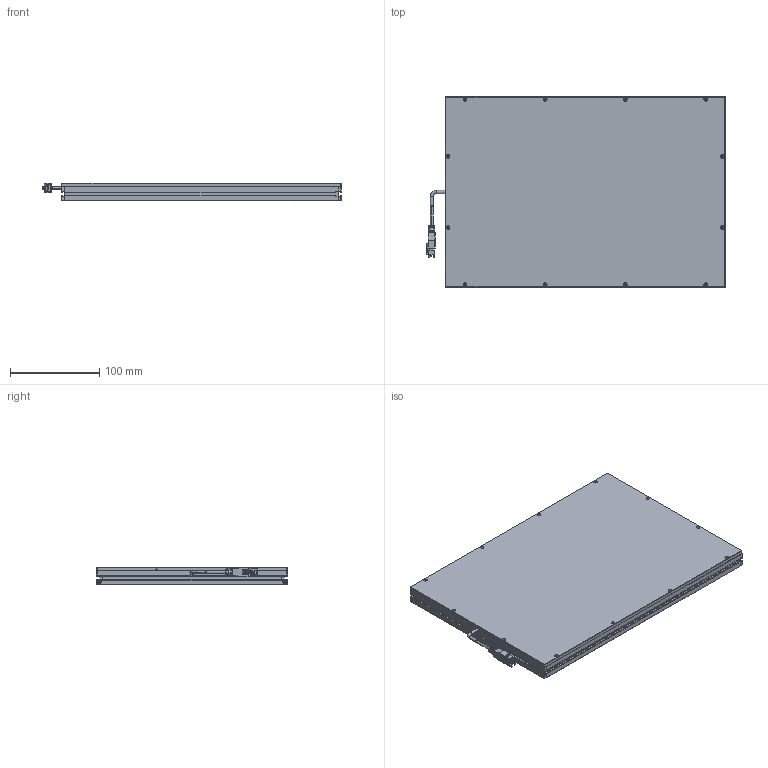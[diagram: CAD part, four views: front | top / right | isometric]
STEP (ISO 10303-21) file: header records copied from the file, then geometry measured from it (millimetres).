
FILE_DESCRIPTION (( 'STEP AP203' ), '1' );
FILE_NAME ('CRT-2FLD300200-¼òÒ×3DÍ¼.STEP', '2021-11-24T01:05:09', ( 'Admin' ), ( '' ), 'SwSTEP 2.0', 'SolidWorks 2018', '' );
FILE_SCHEMA (( 'CONFIG_CONTROL_DESIGN' ));
Length unit declared in the file: millimetre
Products named in the file (1): CRT-2FLD300200-潠眢3D芞
Bounding box: 334.95 x 214 x 20 mm (x, y, z)
Surface area: 237642.1 mm2 (no closed solid volume)
Topology: 0 solids, 9 shells, 316 faces, 1115 edges, 775 vertices
Faces by surface type: plane 173, cylinder 124, cone 11, bspline 8
Entity records: 12401 total; most frequent: CARTESIAN_POINT 2820, DIRECTION 2011, ORIENTED_EDGE 1772, EDGE_CURVE 1113, VERTEX_POINT 775, LINE 707, VECTOR 707, AXIS2_PLACEMENT_3D 652
